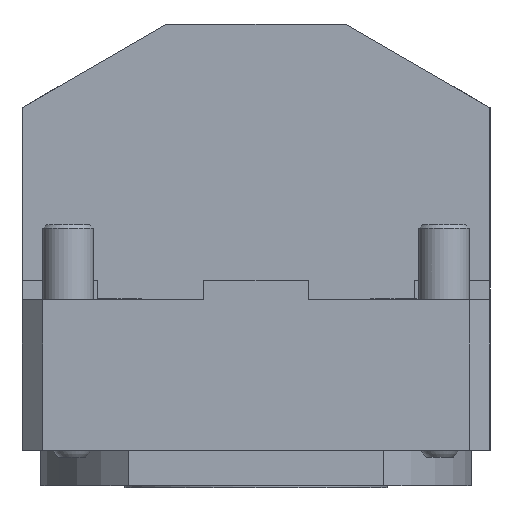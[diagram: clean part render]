
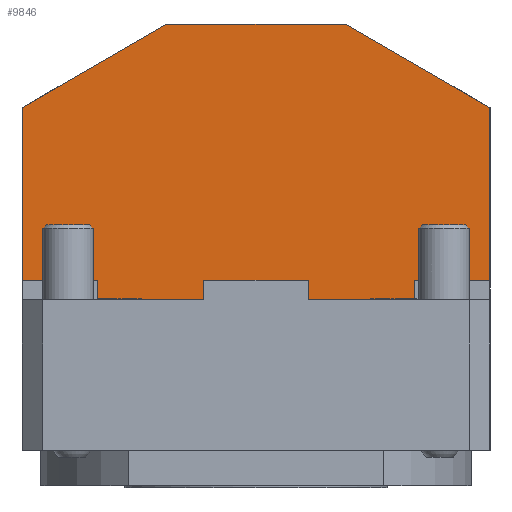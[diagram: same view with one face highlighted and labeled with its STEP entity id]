
A CAD part, left-side view. The second image highlights one B-rep face of the part: STEP entity #9846.
In plain terms, the highlighted planar face has unit normal (-1, 0, 0).
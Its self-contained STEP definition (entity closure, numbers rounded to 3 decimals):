
#4180=VECTOR('',#6975,1.);
#4193=VECTOR('',#6996,1.);
#4197=VECTOR('',#7010,1.);
#4198=VECTOR('',#7011,1.);
#4199=VECTOR('',#7012,1.);
#4200=VECTOR('',#7013,1.);
#4418=LINE('',#8148,#4180);
#4431=LINE('',#8173,#4193);
#4435=LINE('',#8189,#4197);
#4436=LINE('',#8191,#4198);
#4437=LINE('',#8193,#4199);
#4438=LINE('',#8194,#4200);
#4768=ORIENTED_EDGE('',*,*,#6005,.T.);
#4769=ORIENTED_EDGE('',*,*,#5997,.T.);
#4770=ORIENTED_EDGE('',*,*,#5984,.T.);
#4771=ORIENTED_EDGE('',*,*,#6006,.T.);
#4772=ORIENTED_EDGE('',*,*,#6007,.F.);
#4773=ORIENTED_EDGE('',*,*,#6008,.T.);
#5688=VERTEX_POINT('',#8145);
#5689=VERTEX_POINT('',#8147);
#5697=VERTEX_POINT('',#8172);
#5704=VERTEX_POINT('',#8188);
#5705=VERTEX_POINT('',#8190);
#5706=VERTEX_POINT('',#8192);
#5984=EDGE_CURVE('',#5689,#5688,#4418,.T.);
#5997=EDGE_CURVE('',#5697,#5689,#4431,.T.);
#6005=EDGE_CURVE('',#5704,#5697,#4435,.T.);
#6006=EDGE_CURVE('',#5688,#5705,#4436,.T.);
#6007=EDGE_CURVE('',#5706,#5705,#4437,.T.);
#6008=EDGE_CURVE('',#5706,#5704,#4438,.T.);
#6365=EDGE_LOOP('',(#4768,#4769,#4770,#4771,#4772,#4773));
#6634=FACE_BOUND('',#6365,.T.);
#6975=DIRECTION('',(0.,0.,46.));
#6996=DIRECTION('',(0.,-112.,0.));
#7008=DIRECTION('',(-1.,0.,0.));
#7009=DIRECTION('',(0.,1.,0.));
#7010=DIRECTION('',(0.,0.,-46.));
#7011=DIRECTION('',(0.,34.641,20.));
#7012=DIRECTION('',(0.,-42.718,0.));
#7013=DIRECTION('',(0.,34.641,-20.));
#8145=CARTESIAN_POINT('',(60.,-56.,46.));
#8147=CARTESIAN_POINT('',(60.,-56.,0.));
#8148=CARTESIAN_POINT('',(60.,-56.,0.));
#8172=CARTESIAN_POINT('',(60.,56.,0.));
#8173=CARTESIAN_POINT('',(60.,56.,0.));
#8187=CARTESIAN_POINT('',(60.,56.,66.));
#8188=CARTESIAN_POINT('',(60.,56.,46.));
#8189=CARTESIAN_POINT('',(60.,56.,46.));
#8190=CARTESIAN_POINT('',(60.,-21.359,66.));
#8191=CARTESIAN_POINT('',(60.,-56.,46.));
#8192=CARTESIAN_POINT('',(60.,21.359,66.));
#8193=CARTESIAN_POINT('',(60.,21.359,66.));
#8194=CARTESIAN_POINT('',(60.,21.359,66.));
#9381=AXIS2_PLACEMENT_3D('',#8187,#7008,#7009);
#9710=PLANE('',#9381);
#9846=ADVANCED_FACE('',(#6634),#9710,.T.);
